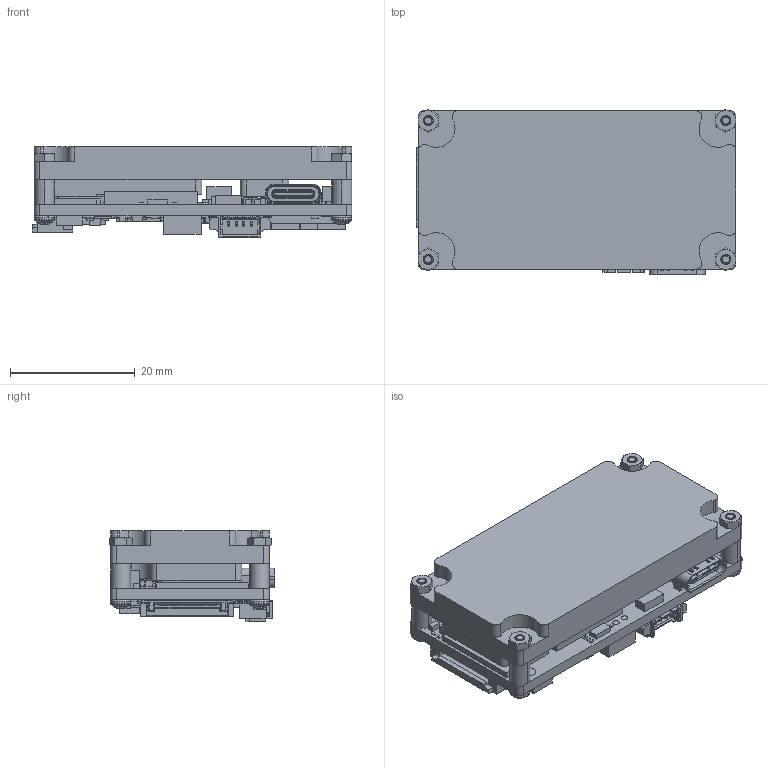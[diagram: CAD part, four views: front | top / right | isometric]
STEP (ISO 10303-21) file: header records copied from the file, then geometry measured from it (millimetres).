
FILE_DESCRIPTION (( 'STEP AP214' ), '1' );
FILE_NAME ('Jupiter_Drone.STEP', '2023-11-06T12:49:54', ( '' ), ( '' ), 'SwSTEP 2.0', 'SolidWorks 2019', '' );
FILE_SCHEMA (( 'AUTOMOTIVE_DESIGN' ));
Length unit declared in the file: millimetre
Products named in the file (93): DRONE_DFE201612C.stp-3; DRONE_RCLAMP0524P.stp; DRONE_C0805.stp-1; DRONE_532610471.stp; DRONE_XAL4020.stp; DRONE_PinsArrayLR.stp; DRONE_Body-5.stp; DRONE_ASSEMBLY.stp; 348_1001_V01; DRONE_TPAD_050.stp; DRONE_DFE201612C.stp; DRONE_product-0.stp; DRONE_BGA200_0P65X0P8_10P1X14P6.stp; DRONE_Body-4.stp; DRONE_FH28D-20S-0P5S.stp; DRONE_SM06B-SRSS-TB.stp; DRONE_X32_3P2X2P5.stp; DRONE_Array.stp; DRONE_HUQFN16_1P6X2P4.stp; DRONE_X3_1P6X1P2.stp; DRONE_WLCSP10_0P4_1P2X1P6MM_SMDP.stp; DRONE_ASSEMBLY-1.stp; DRONE_R0201.stp; DRONE_FH28D-20S-0.5SH___.1-1.stp; DRONE_C0603.stp; DRONE_XFL4020-222MEC.stp; DRONE_Jupiter_Drone_R1.stp; DRONE_DFE201612C.stp-1; DRONE_BOARD_OUTLINE.stp; DRONE_USP-11B01.stp; DRONE_R0402.stp; DRONE_PinsArrayTB.stp; DRONE_C0805.stp; 338_1001_V03; DRONE_Pins-6.stp; DRONE_C0201.stp; DRONE_FID40.stp; DRONE_WLCSP12_0P4_1P3X1P7MM_SMDP.stp; DRONE_CP_32_12.stp; DRONE_SOT23_S6.stp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
Assembly tree (470 placements, depth 7):
  Jupiter_Drone
    DRONE_Jupiter_Drone_R1
      DRONE_Jupiter_Drone_R1.stp
        DRONE_COMPONENTS.stp
          DRONE_DFE201612C.stp
            DRONE_product.stp
          DRONE_DFE201612C.stp-1
            DRONE_product.stp
          DRONE_DFE201612C.stp-2
            DRONE_product.stp
          DRONE_DFE201612C.stp-3
            DRONE_product.stp
          DRONE_DFE201612C.stp-4
            DRONE_product.stp
          DRONE_DFE201612C.stp-5
            DRONE_product.stp
          DRONE_C0805.stp
            DRONE_TMK212SD223KG-T.stp
          DRONE_C0805.stp-1
            DRONE_TMK212SD223KG-T.stp
          DRONE_C0805.stp-2
            DRONE_TMK212SD223KG-T.stp
          DRONE_XAL4020.stp
            DRONE_XFL4020-222MEC.stp
          DRONE_LED0402.stp
            DRONE_product-0.stp
          DRONE_X32_3P2X2P5.stp
            DRONE_ASSEMBLY.stp
              DRONE_Body.stp
              DRONE_Pins.stp
          DRONE_SOT-563.stp
            DRONE_CDSOT563-0502.stp
          DRONE_FH28D-20S-0P5S.stp
            DRONE_FH28D-20S-0.5SH___.1.stp
              DRONE_FH28D-20S-0.5SH___.1-1.stp
          DRONE_0532610471.stp
            DRONE_532610471.stp
          DRONE_DX07S024JA2-V2.stp
            DRONE_K3D-DX07S024JA2-V1_JAE_Proprietary.stp
          DRONE_DFE252012C.stp
            DRONE_product-2.stp
          DRONE_WLCSP12_0P4_1P3X1P7MM_SMDP.stp
            DRONE_ASSEMBLY-1.stp
              DRONE_Array.stp
              DRONE_Body-3.stp
          DRONE_HX2QFN16_0P4_2P7X2P7.stp
            DRONE_ASSEMBLY-2.stp
              DRONE_Body-4.stp
              DRONE_ThermalPin.stp
              DRONE_PinsArrayLR.stp
              DRONE_PinsArrayTB.stp
          DRONE_HUQFN16_1P6X2P4.stp
            DRONE_ASSEMBLY-3.stp
              DRONE_Body-5.stp
              DRONE_Pins-6.stp
          DRONE_WLCSP42_0P4_2P94X2P54_SMDP.stp
            DRONE_product-7.stp
          DRONE_IND_0402RND.stp  x5
          DRONE_DO_VMN2.stp
          DRONE_SM02B-SRSS-TB.stp
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Bounding box: 51.16 x 26.54 x 14.49 mm (x, y, z)
Volume: 10533.1 mm3; surface area: 12722.6 mm2
Topology: 163 solids, 564 shells, 6507 faces, 16353 edges, 10426 vertices
Faces by surface type: plane 4751, cylinder 1293, sphere 148, cone 130, bspline 101, torus 84
Entity records: 117923 total; most frequent: CARTESIAN_POINT 27078, ORIENTED_EDGE 17908, DIRECTION 17397, EDGE_CURVE 8998, VECTOR 6863, LINE 6863, VERTEX_POINT 5863, AXIS2_PLACEMENT_3D 5267
